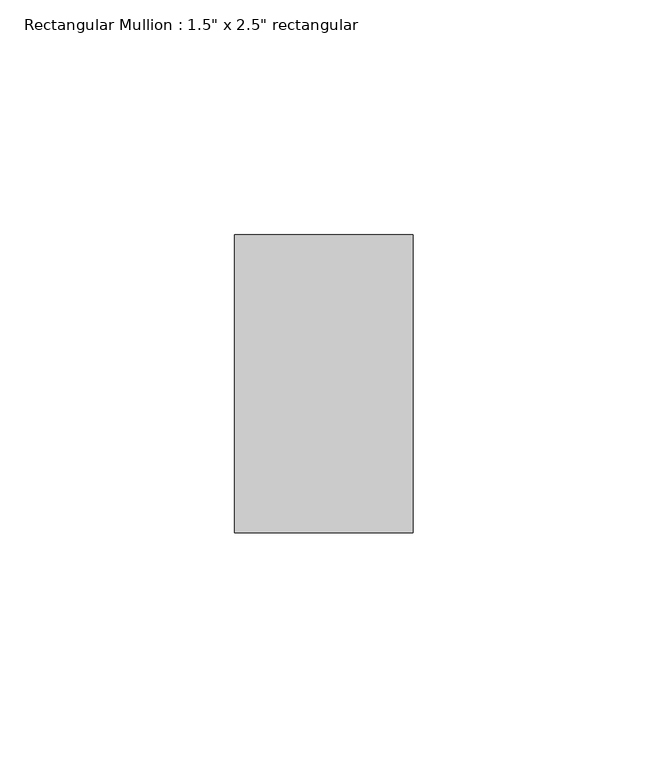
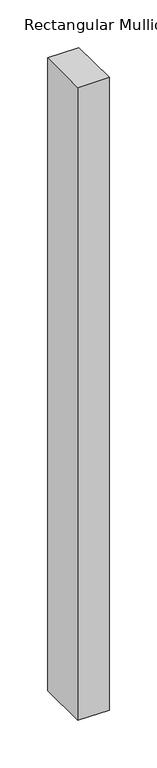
"""IFC4 building model written with IfcOpenShell, lengths in millimetres: member geometry."""

from ifc_helpers import new_model, si_unit, frame, origin, place, context, project, spatial, polyline, outline, extrude, source, transform, mapped, element, save


def member_be47aeaa(model_context):
    return source(origin(), model_context, "Body", "SweptSolid", [
        extrude(outline(polyline([(19.05, 31.75), (19.05, -31.75), (-19.05, -31.75), (-19.05, 31.75), (19.05, 31.75)])), frame((0.0, 0.0, -812.8), z_axis=(0.0, 0.0, 1.0), x_axis=(1.0, 0.0, 0.0)), (0.0, 0.0, 1.0), 812.8),
    ])


if __name__ == "__main__":
    model = new_model("IFC4")
    model_context = context("Model", 3, world=origin())
    ifc_project = project(units=[si_unit("LENGTHUNIT", "METRE", prefix="MILLI")], contexts=[model_context])
    site = spatial("IfcSite", under=ifc_project)
    building = spatial("IfcBuilding", under=site)
    placement = place(None, origin())
    member_shape = member_be47aeaa(model_context)
    element("IfcMember", 1, ObjectType="Rectangular Mullion : 1.5\" x 2.5\" rectangular", at=placement, inside=building, context=model_context, shape_type="MappedRepresentation", body=[
        mapped(member_shape, transform((0.0, 0.0, 0.0), x_axis=(1.0, 0.0, 0.0), y_axis=(0.0, 1.0, 0.0), z_axis=(0.0, 0.0, 1.0))),
    ])
    save(model, "model.ifc")
